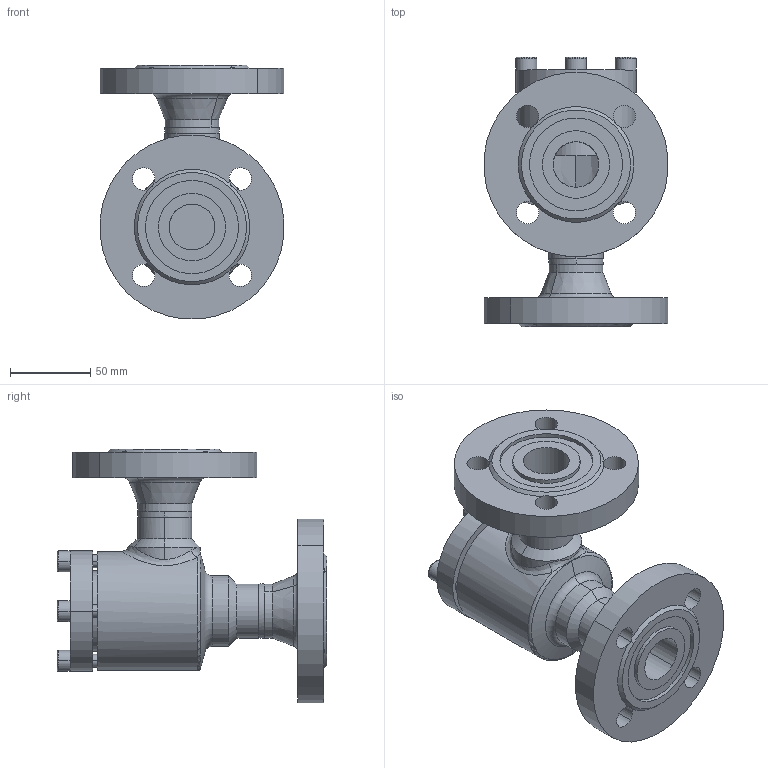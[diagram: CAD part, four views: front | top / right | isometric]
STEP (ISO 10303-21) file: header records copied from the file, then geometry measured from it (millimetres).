
FILE_DESCRIPTION (( 'STEP AP214' ), '1' );
FILE_NAME ('RV28420D12-DN025_DIN-FL-N_PS40.STEP', '2006-04-28T05:28:22', ( 'Herr Grams' ), ( 'AWP GmbH' ), 'SwSTEP 2.0', 'SolidWorks 2002296', '' );
FILE_SCHEMA (( 'AUTOMOTIVE_DESIGN' ));
Length unit declared in the file: millimetre
Products named in the file (9): RV28420D12-DN025_DIN-FL-N_PS40; RV28300E13_Deck+Schr-DN25-32_Standard; Deckel28300E13-DN25-32_Standard; Zylinderschraube-DIN912_M 8x 25; Gehäuse-kpl16420-DN025_DIN_PS40_Standard; bead16420-Geh-025-1_Standard; bead16420-Geh-025-2_Standard; Flansch-DIN2635-Nut_PS40_DIN-Flansch-DN025_PS40-Nut; Gehäuse16400-DN025_Standard
Assembly tree (12 placements, depth 3):
  RV28420D12-DN025_DIN-FL-N_PS40
    RV28300E13_Deck+Schr-DN25-32_Standard
      Zylinderschraube-DIN912_M 8x 25  x4
      Deckel28300E13-DN25-32_Standard
    Gehäuse-kpl16420-DN025_DIN_PS40_Standard
      bead16420-Geh-025-1_Standard
      Gehäuse16400-DN025_Standard
      Flansch-DIN2635-Nut_PS40_DIN-Flansch-DN025_PS40-Nut  x2
      bead16420-Geh-025-2_Standard
Bounding box: 114.56 x 168 x 158.28 mm (x, y, z)
Volume: 610651.9 mm3; surface area: 136700.5 mm2
Topology: 10 solids, 10 shells, 219 faces, 505 edges, 315 vertices
Faces by surface type: cylinder 87, plane 64, cone 41, torus 16, bspline 11
Entity records: 16241 total; most frequent: CARTESIAN_POINT 12584, DIRECTION 683, ORIENTED_EDGE 618, EDGE_CURVE 309, AXIS2_PLACEMENT_3D 290, VERTEX_POINT 191, EDGE_LOOP 162, CIRCLE 151
